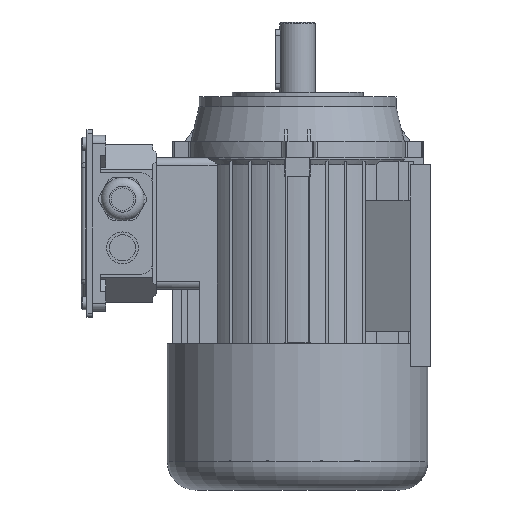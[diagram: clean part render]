
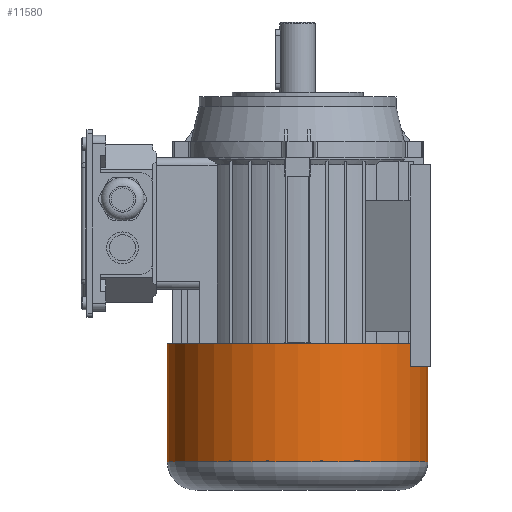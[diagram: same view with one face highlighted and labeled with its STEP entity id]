
A CAD part, left-side view. The second image highlights one B-rep face of the part: STEP entity #11580.
In plain terms, the highlighted cylindrical face has radius 69.5 mm (diameter 139 mm), a full revolution.
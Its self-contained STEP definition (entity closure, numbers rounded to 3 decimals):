
#2374=FACE_BOUND('',#3990,.T.);
#2550=CYLINDRICAL_SURFACE('',#12714,69.5);
#3214=FACE_OUTER_BOUND('',#3989,.T.);
#3989=EDGE_LOOP('',(#10475));
#3990=EDGE_LOOP('',(#10476));
#4465=CIRCLE('',#12712,69.5);
#4466=CIRCLE('',#12715,69.5);
#5569=VERTEX_POINT('',#19846);
#5570=VERTEX_POINT('',#19850);
#7206=EDGE_CURVE('',#5569,#5569,#4465,.T.);
#7207=EDGE_CURVE('',#5570,#5570,#4466,.T.);
#10475=ORIENTED_EDGE('',*,*,#7207,.F.);
#10476=ORIENTED_EDGE('',*,*,#7206,.F.);
#11580=ADVANCED_FACE('',(#3214,#2374),#2550,.T.);
#12712=AXIS2_PLACEMENT_3D('',#19847,#15989,#15990);
#12714=AXIS2_PLACEMENT_3D('',#19849,#15993,#15994);
#12715=AXIS2_PLACEMENT_3D('',#19851,#15995,#15996);
#15989=DIRECTION('center_axis',(0.,0.,-1.));
#15990=DIRECTION('ref_axis',(0.,-1.,0.));
#15993=DIRECTION('center_axis',(0.,0.,1.));
#15994=DIRECTION('ref_axis',(0.,1.,0.));
#15995=DIRECTION('center_axis',(0.,0.,1.));
#15996=DIRECTION('ref_axis',(-1.,0.,0.));
#19846=CARTESIAN_POINT('',(0.,69.5,-108.2));
#19847=CARTESIAN_POINT('Origin',(0.,0.,-108.2));
#19849=CARTESIAN_POINT('Origin',(0.,0.,-84.2));
#19850=CARTESIAN_POINT('',(0.,69.5,-45.2));
#19851=CARTESIAN_POINT('Origin',(0.,0.,-45.2));
